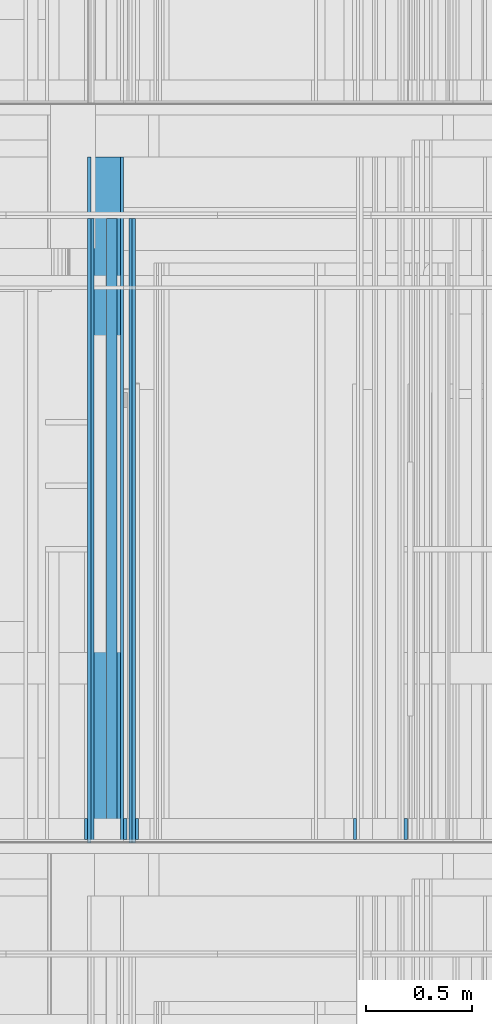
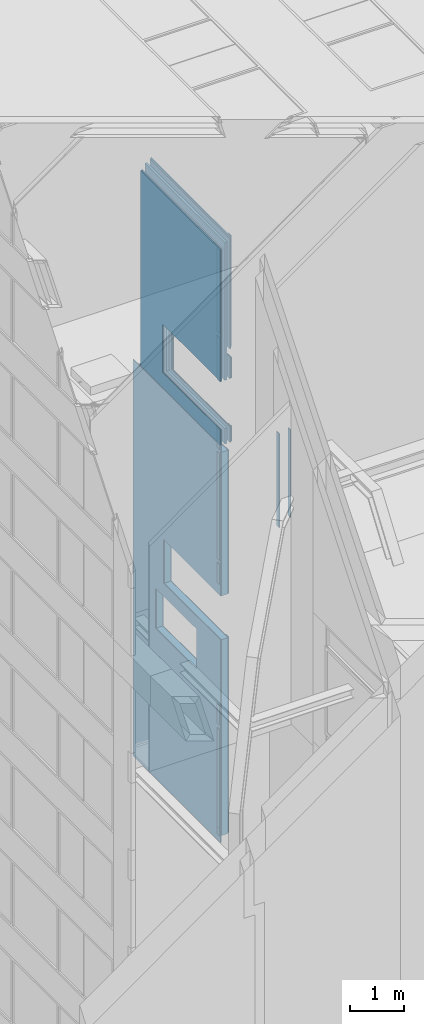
# One storey, part 73 of 583: 24 building element parts, 4 openings, 3 elements without a shape of their own.
"""IFC2X3 building model written with IfcOpenShell, lengths in metres."""

from ifc_helpers import new_model, entity, si_unit, converted_unit, derived_unit, money_unit, direction, frame, frame_2d, origin_with_axes, place, context, subcontext, project, spatial, polyline, rectangle, outline, extrude, material, type_object, element, aggregate, save


model = new_model("IFC2X3")

# Units and contexts
model_context = context("Model", 3, precision=1e-05, world=origin_with_axes(), true_north=direction((0.0, 1.0)))
body_context = subcontext(model_context, "Body", "Model", "MODEL_VIEW", scale=1.0)
ifc_project = project(units=[si_unit("LENGTHUNIT", "METRE"), si_unit("AREAUNIT", "SQUARE_METRE"), si_unit("VOLUMEUNIT", "CUBIC_METRE"), si_unit("ABSORBEDDOSEUNIT", "GRAY"), si_unit("AMOUNTOFSUBSTANCEUNIT", "MOLE"), si_unit("DOSEEQUIVALENTUNIT", "SIEVERT"), si_unit("ELECTRICCAPACITANCEUNIT", "FARAD"), si_unit("ELECTRICCHARGEUNIT", "COULOMB"), si_unit("ELECTRICCONDUCTANCEUNIT", "SIEMENS"), si_unit("ELECTRICCURRENTUNIT", "AMPERE"), si_unit("ELECTRICRESISTANCEUNIT", "OHM"), si_unit("ELECTRICVOLTAGEUNIT", "VOLT"), si_unit("ENERGYUNIT", "JOULE"), si_unit("FORCEUNIT", "NEWTON"), si_unit("FREQUENCYUNIT", "HERTZ"), si_unit("ILLUMINANCEUNIT", "LUX"), si_unit("INDUCTANCEUNIT", "HENRY"), si_unit("LUMINOUSFLUXUNIT", "LUMEN"), si_unit("LUMINOUSINTENSITYUNIT", "CANDELA"), si_unit("MAGNETICFLUXDENSITYUNIT", "TESLA"), si_unit("MAGNETICFLUXUNIT", "WEBER"), si_unit("MASSUNIT", "GRAM"), converted_unit("PLANEANGLEUNIT", "degree", entity("IfcReal", 0.0174532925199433), si_unit("PLANEANGLEUNIT", "RADIAN"), dimensions=[0, 0, 0, 0, 0, 0, 0]), si_unit("POWERUNIT", "WATT"), si_unit("PRESSUREUNIT", "PASCAL"), si_unit("RADIOACTIVITYUNIT", "BECQUEREL"), si_unit("SOLIDANGLEUNIT", "STERADIAN"), si_unit("THERMODYNAMICTEMPERATUREUNIT", "KELVIN"), si_unit("TIMEUNIT", "SECOND"), derived_unit("ACCELERATIONUNIT", [(si_unit("LENGTHUNIT", "METRE"), 1), (si_unit("TIMEUNIT", "SECOND"), -2)]), derived_unit("ANGULARVELOCITYUNIT", [(converted_unit("PLANEANGLEUNIT", "degree", entity("IfcReal", 0.0174532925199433), si_unit("PLANEANGLEUNIT", "RADIAN"), dimensions=[0, 0, 0, 0, 0, 0, 0]), 1), (si_unit("TIMEUNIT", "SECOND"), -1)]), derived_unit("CURVATUREUNIT", [(converted_unit("PLANEANGLEUNIT", "degree", entity("IfcReal", 0.0174532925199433), si_unit("PLANEANGLEUNIT", "RADIAN"), dimensions=[0, 0, 0, 0, 0, 0, 0]), 1), (si_unit("LENGTHUNIT", "METRE"), -1)]), derived_unit("DYNAMICVISCOSITYUNIT", [(si_unit("PRESSUREUNIT", "PASCAL"), 1), (si_unit("TIMEUNIT", "SECOND"), 1)]), derived_unit("HEATFLUXDENSITYUNIT", [(si_unit("POWERUNIT", "WATT"), 1), (si_unit("LENGTHUNIT", "METRE"), -2)]), derived_unit("HEATINGVALUEUNIT", [(si_unit("ENERGYUNIT", "JOULE"), 1), (si_unit("MASSUNIT", "GRAM"), -1)]), derived_unit("INTEGERCOUNTRATEUNIT", [(si_unit("TIMEUNIT", "SECOND"), -1)]), derived_unit("IONCONCENTRATIONUNIT", [(si_unit("MASSUNIT", "GRAM"), 1), (si_unit("VOLUMEUNIT", "CUBIC_METRE"), -1)]), derived_unit("ISOTHERMALMOISTURECAPACITYUNIT", [(si_unit("VOLUMEUNIT", "CUBIC_METRE"), 1), (si_unit("MASSUNIT", "GRAM"), -1)]), derived_unit("KINEMATICVISCOSITYUNIT", [(si_unit("AREAUNIT", "SQUARE_METRE"), 1), (si_unit("TIMEUNIT", "SECOND"), -1)]), derived_unit("LINEARFORCEUNIT", [(si_unit("FORCEUNIT", "NEWTON"), 1), (si_unit("LENGTHUNIT", "METRE"), -1)]), derived_unit("LINEARMOMENTUNIT", [(si_unit("FORCEUNIT", "NEWTON"), 1), (si_unit("LENGTHUNIT", "METRE"), -1)]), derived_unit("LINEARSTIFFNESSUNIT", [(si_unit("FORCEUNIT", "NEWTON"), 1), (si_unit("LENGTHUNIT", "METRE"), -1)]), derived_unit("LINEARVELOCITYUNIT", [(si_unit("LENGTHUNIT", "METRE"), 1), (si_unit("TIMEUNIT", "SECOND"), -1)]), derived_unit("LUMINOUSINTENSITYDISTRIBUTIONUNIT", [(si_unit("LUMINOUSINTENSITYUNIT", "CANDELA"), 1), (si_unit("LUMINOUSFLUXUNIT", "LUMEN"), -1)]), derived_unit("MASSDENSITYUNIT", [(si_unit("MASSUNIT", "GRAM"), 1), (si_unit("VOLUMEUNIT", "CUBIC_METRE"), -1)]), derived_unit("MASSFLOWRATEUNIT", [(si_unit("MASSUNIT", "GRAM"), 1), (si_unit("TIMEUNIT", "SECOND"), -1)]), derived_unit("MASSPERLENGTHUNIT", [(si_unit("MASSUNIT", "GRAM"), 1), (si_unit("LENGTHUNIT", "METRE"), -1)]), derived_unit("MODULUSOFELASTICITYUNIT", [(si_unit("FORCEUNIT", "NEWTON"), 1), (si_unit("AREAUNIT", "SQUARE_METRE"), -1)]), derived_unit("MODULUSOFLINEARSUBGRADEREACTIONUNIT", [(si_unit("FORCEUNIT", "NEWTON"), 1), (si_unit("LENGTHUNIT", "METRE"), -2)]), derived_unit("MODULUSOFROTATIONALSUBGRADEREACTIONUNIT", [(si_unit("FORCEUNIT", "NEWTON"), 1), (si_unit("LENGTHUNIT", "METRE"), 1)]), derived_unit("MODULUSOFSUBGRADEREACTIONUNIT", [(si_unit("FORCEUNIT", "NEWTON"), 1), (si_unit("VOLUMEUNIT", "CUBIC_METRE"), -1)]), derived_unit("MOISTUREDIFFUSIVITYUNIT", [(si_unit("VOLUMEUNIT", "CUBIC_METRE"), 1), (si_unit("TIMEUNIT", "SECOND"), -1)]), derived_unit("MOLECULARWEIGHTUNIT", [(si_unit("MASSUNIT", "GRAM"), 1), (si_unit("AMOUNTOFSUBSTANCEUNIT", "MOLE"), -1)]), derived_unit("PLANARFORCEUNIT", [(si_unit("FORCEUNIT", "NEWTON"), 1), (si_unit("LENGTHUNIT", "METRE"), -2)]), derived_unit("ROTATIONALFREQUENCYUNIT", [(si_unit("TIMEUNIT", "SECOND"), -1)]), derived_unit("ROTATIONALMASSUNIT", [(si_unit("MASSUNIT", "GRAM"), 1), (si_unit("LENGTHUNIT", "METRE"), 2)]), derived_unit("ROTATIONALSTIFFNESSUNIT", [(si_unit("FORCEUNIT", "NEWTON"), 1), (si_unit("LENGTHUNIT", "METRE"), 1), (converted_unit("PLANEANGLEUNIT", "degree", entity("IfcReal", 0.0174532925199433), si_unit("PLANEANGLEUNIT", "RADIAN"), dimensions=[0, 0, 0, 0, 0, 0, 0]), -1)]), derived_unit("SECTIONAREAINTEGRALUNIT", [(si_unit("LENGTHUNIT", "METRE"), 5)]), derived_unit("SECTIONMODULUSUNIT", [(si_unit("LENGTHUNIT", "METRE"), 3)]), derived_unit("SHEARMODULUSUNIT", [(si_unit("FORCEUNIT", "NEWTON"), 1), (si_unit("AREAUNIT", "SQUARE_METRE"), -1)]), derived_unit("SOUNDPOWERUNIT", [(si_unit("ENERGYUNIT", "JOULE"), 1), (si_unit("TIMEUNIT", "SECOND"), -1)]), derived_unit("SPECIFICHEATCAPACITYUNIT", [(si_unit("FORCEUNIT", "NEWTON"), 1), (si_unit("MASSUNIT", "GRAM"), -1), (si_unit("THERMODYNAMICTEMPERATUREUNIT", "KELVIN"), -1)]), derived_unit("TEMPERATUREGRADIENTUNIT", [(si_unit("THERMODYNAMICTEMPERATUREUNIT", "KELVIN"), 1), (si_unit("LENGTHUNIT", "METRE"), -1)]), derived_unit("THERMALADMITTANCEUNIT", [(si_unit("POWERUNIT", "WATT"), 1), (si_unit("AREAUNIT", "SQUARE_METRE"), -1), (si_unit("THERMODYNAMICTEMPERATUREUNIT", "KELVIN"), -1)]), derived_unit("THERMALCONDUCTANCEUNIT", [(si_unit("POWERUNIT", "WATT"), 1), (si_unit("LENGTHUNIT", "METRE"), -1), (si_unit("THERMODYNAMICTEMPERATUREUNIT", "KELVIN"), -1)]), derived_unit("THERMALEXPANSIONCOEFFICIENTUNIT", [(si_unit("THERMODYNAMICTEMPERATUREUNIT", "KELVIN"), -1)]), derived_unit("THERMALRESISTANCEUNIT", [(si_unit("AREAUNIT", "SQUARE_METRE"), 1), (si_unit("POWERUNIT", "WATT"), -1)]), derived_unit("THERMALTRANSMITTANCEUNIT", [(si_unit("POWERUNIT", "WATT"), 1), (si_unit("AREAUNIT", "SQUARE_METRE"), -1), (si_unit("THERMODYNAMICTEMPERATUREUNIT", "KELVIN"), -1)]), derived_unit("TORQUEUNIT", [(si_unit("FORCEUNIT", "NEWTON"), 1), (si_unit("LENGTHUNIT", "METRE"), 1)]), derived_unit("VAPORPERMEABILITYUNIT", [(si_unit("MASSUNIT", "GRAM"), 1), (si_unit("TIMEUNIT", "SECOND"), -1)]), derived_unit("VOLUMETRICFLOWRATEUNIT", [(si_unit("VOLUMEUNIT", "CUBIC_METRE"), 1), (si_unit("TIMEUNIT", "SECOND"), -1)]), derived_unit("WARPINGCONSTANTUNIT", [(si_unit("LENGTHUNIT", "METRE"), 6)]), derived_unit("WARPINGMOMENTUNIT", [(si_unit("FORCEUNIT", "NEWTON"), 1), (si_unit("LENGTHUNIT", "METRE"), 2)]), money_unit("GBP")], contexts=[model_context])

# Site, building, storey
site_placement = place(None, origin_with_axes())
site = spatial("IfcSite", under=ifc_project, at=site_placement, Name="Site", CompositionType="ELEMENT")
building_placement = place(site_placement, origin_with_axes())
building = spatial("IfcBuilding", under=site, at=building_placement, Name="Building01", CompositionType="ELEMENT")
storey_placement = place(building_placement, frame((0.0, 0.0, 20.78), z_axis=(0.0, 0.0, 1.0), x_axis=(1.0, 0.0, 0.0)))
storey = spatial("IfcBuildingStorey", under=building, at=storey_placement, Name="RL", CompositionType="ELEMENT", Elevation=20.78)

# Wall, openings, building element parts
wall_type_1 = type_object("IfcWallType", Name="SHE_A-Walls_Type01c_Partywall_225mm_twin_tall", PredefinedType="NOTDEFINED")
wall_1_placement = place(storey_placement, frame((5.068, 8.64, -2.78), z_axis=(0.0, 1.0, 0.0), x_axis=(0.0, 0.0, 1.0)))
wall_1 = element("IfcWall", 1, at=wall_1_placement, inside=storey, type_object=wall_type_1, Name="1C", ObjectType="SHE_A-Walls_Type01c_Partywall_225mm_twin_tall")
opening_1_placement = place(wall_1_placement, frame((0.35, -0.475, -0.03), z_axis=(0.0, 0.0, 1.0), x_axis=(1.0, 0.0, 0.0)))
element("IfcOpeningElement", 2, at=opening_1_placement, cuts=wall_1, Name="Opening", ObjectType="Opening", context=body_context, shape_type="SweptSolid", body=[
    extrude(rectangle(XDim=1.084, YDim=2.142, at=frame_2d((0.542, 1.071), x_axis=(-1.0, 0.0))), frame((0.0, 0.7875, 0.0), z_axis=(0.0, -1.0, 0.0), x_axis=(1.0, 0.0, 0.0)), (0.0, 0.0, 1.0), 1.575),
])
opening_2_placement = place(wall_1_placement, frame((0.35, -0.088, 0.0), z_axis=(0.0, 0.0, 1.0), x_axis=(1.0, 0.0, 0.0)))
element("IfcOpeningElement", 3, at=opening_2_placement, cuts=wall_1, Name="Opening", ObjectType="Opening", context=body_context, shape_type="SweptSolid", body=[
    extrude(rectangle(XDim=2.142, YDim=1.084, at=frame_2d((0.542, 1.071), x_axis=(0.0, -1.0))), frame((0.0, 0.207, 0.0), z_axis=(0.0, -1.0, 0.0), x_axis=(1.0, 0.0, 0.0)), (0.0, 0.0, 1.0), 0.414),
])
ifc_material_1 = material(Name="A_BSUK_Insulation")
placement_1 = place(wall_1_placement, origin_with_axes())
building_element_part_1 = element("IfcBuildingElementPart", 4, at=placement_1, material=ifc_material_1, Name="1", context=body_context, shape_type="SweptSolid", body=[
    extrude(rectangle(XDim=4.538, YDim=0.05, at=frame_2d((2.269, 0.025), x_axis=(-1.0, 0.0))), origin_with_axes(), (0.0, 0.0, 1.0), 2.95),
])
ifc_material_2 = material(Name="A_BSUK_Walls_Timber")
building_element_part_2 = element("IfcBuildingElementPart", 5, at=placement_1, material=ifc_material_2, Name="2", context=body_context, shape_type="SweptSolid", body=[
    extrude(outline(polyline([(1.897661, 0.152), (0.015, 0.152), (0.0, 0.137), (1.897661, 0.137), (1.897661, 0.152)])), frame((0.0, 0.0, 0.015), z_axis=(0.0, 0.0, 1.0), x_axis=(1.0, 0.0, 0.0)), (0.0, 0.0, 1.0), 0.1),
])
ifc_material_3 = material(Name="A_BSUK_WallInternal_Finishes_Plasterboard")
building_element_part_3 = element("IfcBuildingElementPart", 6, at=placement_1, material=ifc_material_3, Name="3", context=body_context, shape_type="SweptSolid", body=[
    extrude(rectangle(XDim=1.912661, YDim=0.015, at=frame_2d((0.956331, 0.1295), x_axis=(-1.0, 0.0))), origin_with_axes(), (0.0, 0.0, 1.0), 2.95),
])
building_element_part_4 = element("IfcBuildingElementPart", 7, at=placement_1, material=ifc_material_3, Name="4", context=body_context, shape_type="SweptSolid", body=[
    extrude(rectangle(XDim=1.927661, YDim=0.015, at=frame_2d((0.963831, 0.1145), x_axis=(-1.0, 0.0))), origin_with_axes(), (0.0, 0.0, 1.0), 2.95),
])
building_element_part_5 = element("IfcBuildingElementPart", 8, at=placement_1, material=ifc_material_3, Name="5", context=body_context, shape_type="SweptSolid", body=[
    extrude(outline(polyline([(4.43, -0.058), (0.0, -0.058), (0.0, -0.073), (4.415, -0.073), (4.43, -0.058)])), origin_with_axes(), (0.0, 0.0, 1.0), 2.95),
])
building_element_part_6 = element("IfcBuildingElementPart", 9, at=placement_1, material=ifc_material_3, Name="6", context=body_context, shape_type="SweptSolid", body=[
    extrude(outline(polyline([(4.415, -0.073), (0.0, -0.073), (0.0, -0.088), (4.4, -0.088), (4.415, -0.073)])), origin_with_axes(), (0.0, 0.0, 1.0), 2.95),
])
building_element_part_7 = element("IfcBuildingElementPart", 10, at=placement_1, material=ifc_material_2, Name="7", context=body_context, shape_type="SweptSolid", body=[
    extrude(rectangle(XDim=2.415, YDim=0.015, at=frame_2d((1.2075, -0.0955), x_axis=(-1.0, 0.0))), frame((0.0, 0.0, 0.015), z_axis=(0.0, 0.0, 1.0), x_axis=(1.0, 0.0, 0.0)), (0.0, 0.0, 1.0), 0.1),
])
building_element_part_8 = element("IfcBuildingElementPart", 11, at=placement_1, material=ifc_material_3, Name="8", context=body_context, shape_type="SweptSolid", body=[
    extrude(outline(polyline([(4.415, -0.073), (0.0, -0.073), (0.0, -0.088), (4.4, -0.088), (4.415, -0.073)])), origin_with_axes(), (0.0, 0.0, 1.0), 2.95),
])
building_element_part_9 = element("IfcBuildingElementPart", 12, at=placement_1, material=ifc_material_2, Name="9", context=body_context, shape_type="SweptSolid", body=[
    extrude(outline(polyline([(4.64, 0.152), (2.137661, 0.152), (2.137661, 0.137), (4.625, 0.137), (4.64, 0.152)])), frame((0.0, 0.0, 0.015), z_axis=(0.0, 0.0, 1.0), x_axis=(1.0, 0.0, 0.0)), (0.0, 0.0, 1.0), 0.1),
])
building_element_part_10 = element("IfcBuildingElementPart", 13, at=placement_1, material=ifc_material_3, Name="10", context=body_context, shape_type="SweptSolid", body=[
    extrude(outline(polyline([(4.625, 0.137), (2.107661, 0.137), (2.107661, 0.122), (4.61, 0.122), (4.625, 0.137)])), origin_with_axes(), (0.0, 0.0, 1.0), 2.95),
])
building_element_part_11 = element("IfcBuildingElementPart", 14, at=placement_1, material=ifc_material_3, Name="11", context=body_context, shape_type="SweptSolid", body=[
    extrude(outline(polyline([(4.61, 0.122), (2.107661, 0.122), (2.107661, 0.107), (4.595, 0.107), (4.61, 0.122)])), origin_with_axes(), (0.0, 0.0, 1.0), 2.95),
])
building_element_part_12 = element("IfcBuildingElementPart", 15, at=placement_1, material=ifc_material_2, Name="12", context=body_context, shape_type="SweptSolid", body=[
    extrude(outline(polyline([(4.4, -0.088), (2.51, -0.088), (2.51, -0.103), (4.385, -0.103), (4.4, -0.088)])), frame((0.0, 0.0, 0.015), z_axis=(0.0, 0.0, 1.0), x_axis=(1.0, 0.0, 0.0)), (0.0, 0.0, 1.0), 0.1),
])
aggregate(wall_1, [building_element_part_1, building_element_part_2, building_element_part_3, building_element_part_4, building_element_part_5, building_element_part_6, building_element_part_7, building_element_part_8, building_element_part_9, building_element_part_10, building_element_part_11, building_element_part_12])

# Wall, building element parts
wall_2_placement = place(storey_placement, frame((6.337, 8.64, -2.95), z_axis=(0.0, 1.0, 0.0), x_axis=(0.0, 0.0, -1.0)))
wall_2 = element("IfcWall", 16, at=wall_2_placement, inside=storey, type_object=wall_type_1, Name="1C", ObjectType="SHE_A-Walls_Type01c_Partywall_225mm_twin_tall")
placement_2 = place(wall_2_placement, origin_with_axes())
building_element_part_13 = element("IfcBuildingElementPart", 17, at=placement_2, material=ifc_material_2, Name="2", context=body_context, shape_type="SweptSolid", body=[
    extrude(rectangle(XDim=2.115, YDim=0.015, at=frame_2d((1.0725, 0.0945), x_axis=(-1.0, 0.0))), frame((0.0, 0.0, 0.015), z_axis=(0.0, 0.0, 1.0), x_axis=(1.0, 0.0, 0.0)), (0.0, 0.0, 1.0), 0.1),
])
building_element_part_14 = element("IfcBuildingElementPart", 18, at=placement_2, material=ifc_material_2, Name="7", context=body_context, shape_type="SweptSolid", body=[
    extrude(rectangle(XDim=1.97, YDim=0.015, at=frame_2d((1.0, -0.1455), x_axis=(-1.0, 0.0))), frame((0.0, 0.0, 0.015), z_axis=(0.0, 0.0, 1.0), x_axis=(1.0, 0.0, 0.0)), (0.0, 0.0, 1.0), 0.1),
])
aggregate(wall_2, [building_element_part_13, building_element_part_14])

# Wall, openings, building element parts
wall_type_2 = type_object("IfcWallType", Name="SHE_A-Walls_Type03a_BlockworkWall_170mm", PredefinedType="NOTDEFINED")
wall_3_placement = place(storey_placement, frame((4.995, 8.64, -11.565), z_axis=(0.0, 1.0, 0.0), x_axis=(0.0, 0.0, 1.0)))
wall_3 = element("IfcWall", 19, at=wall_3_placement, inside=storey, type_object=wall_type_2, Name="4B", ObjectType="SHE_A-Walls_Type03a_BlockworkWall_170mm")
opening_3_placement = place(wall_3_placement, frame((3.218, 0.199761, 0.9), z_axis=(0.0, 0.0, 1.0), x_axis=(1.0, 0.0, 0.0)))
element("IfcOpeningElement", 20, at=opening_3_placement, cuts=wall_3, Name="Opening", ObjectType="Opening", context=body_context, shape_type="SweptSolid", body=[
    extrude(rectangle(XDim=0.9, YDim=1.5, at=frame_2d((-0.45, 0.75), x_axis=(-1.0, 0.0))), frame((0.0, -10.524281, 0.0), z_axis=(0.0, 1.0, 0.0), x_axis=(-1.0, 0.0, 0.0)), (0.0, 0.0, 1.0), 21.048563),
])
opening_4_placement = place(wall_3_placement, frame((4.41, 0.15885, 0.0), z_axis=(0.0, 0.0, 1.0), x_axis=(1.0, 0.0, 0.0)))
element("IfcOpeningElement", 21, at=opening_4_placement, cuts=wall_3, Name="Opening", ObjectType="Opening", context=body_context, shape_type="SweptSolid", body=[
    extrude(rectangle(XDim=0.984, YDim=2.1, at=frame_2d((-0.492, 1.05), x_axis=(-1.0, 0.0))), frame((0.0, -10.430351, 0.0), z_axis=(0.0, 1.0, 0.0), x_axis=(-1.0, 0.0, 0.0)), (0.0, 0.0, 1.0), 20.860703),
])
ifc_material_4 = material(Name="A_BSUK_WallsInternal_Block")
placement_3 = place(wall_3_placement, origin_with_axes())
building_element_part_15 = element("IfcBuildingElementPart", 22, at=placement_3, material=ifc_material_4, Name="1", context=body_context, shape_type="SweptSolid", body=[
    extrude(rectangle(XDim=8.63, YDim=0.14, at=frame_2d((4.315, 0.07), x_axis=(-1.0, 0.0))), origin_with_axes(), (0.0, 0.0, 1.0), 3.24),
])
building_element_part_16 = element("IfcBuildingElementPart", 23, at=placement_3, material=ifc_material_2, Name="2", context=body_context, shape_type="SweptSolid", body=[
    extrude(rectangle(XDim=8.6, YDim=0.015, at=frame_2d((4.315, 0.1625), x_axis=(-1.0, 0.0))), frame((0.0, 0.0, 0.015), z_axis=(0.0, 0.0, 1.0), x_axis=(1.0, 0.0, 0.0)), (0.0, 0.0, 1.0), 0.1),
])
ifc_material_5 = material(Name="A_BSUK_WallInternal_Finishes_Plaster")
building_element_part_17 = element("IfcBuildingElementPart", 24, at=placement_3, material=ifc_material_5, Name="3", context=body_context, shape_type="SweptSolid", body=[
    extrude(rectangle(XDim=8.615, YDim=0.015, at=frame_2d((4.3225, 0.1475), x_axis=(-1.0, 0.0))), origin_with_axes(), (0.0, 0.0, 1.0), 3.24),
])
building_element_part_18 = element("IfcBuildingElementPart", 25, at=placement_3, material=ifc_material_3, Name="4", context=body_context, shape_type="SweptSolid", body=[
    extrude(rectangle(XDim=8.925, YDim=0.015, at=frame_2d((4.3075, -0.0075), x_axis=(-1.0, 0.0))), origin_with_axes(), (0.0, 0.0, 1.0), 3.24),
])
building_element_part_19 = element("IfcBuildingElementPart", 26, at=placement_3, material=ifc_material_2, Name="5", context=body_context, shape_type="SweptSolid", body=[
    extrude(rectangle(XDim=0.169464, YDim=0.015, at=frame_2d((0.077268, -0.0225), x_axis=(-1.0, 0.0))), frame((0.0, 0.0, 0.015), z_axis=(0.0, 0.0, 1.0), x_axis=(1.0, 0.0, 0.0)), (0.0, 0.0, 1.0), 0.1),
])
building_element_part_20 = element("IfcBuildingElementPart", 27, at=placement_3, material=ifc_material_2, Name="6", context=body_context, shape_type="SweptSolid", body=[
    extrude(rectangle(XDim=0.4475, YDim=0.015, at=frame_2d((5.87375, -0.0225), x_axis=(-1.0, 0.0))), frame((0.0, 0.0, 0.015), z_axis=(0.0, 0.0, 1.0), x_axis=(1.0, 0.0, 0.0)), (0.0, 0.0, 1.0), 0.1),
])
building_element_part_21 = element("IfcBuildingElementPart", 28, at=placement_3, material=ifc_material_2, Name="7", context=body_context, shape_type="SweptSolid", body=[
    extrude(rectangle(XDim=0.015, YDim=0.0975, at=frame_2d((8.73625, -0.0225), x_axis=(0.0, -1.0))), frame((0.0, 0.0, 0.015), z_axis=(0.0, 0.0, 1.0), x_axis=(1.0, 0.0, 0.0)), (0.0, 0.0, 1.0), 0.1),
])
building_element_part_22 = element("IfcBuildingElementPart", 29, at=placement_3, material=ifc_material_2, Name="8", context=body_context, shape_type="SweptSolid", body=[
    extrude(rectangle(XDim=2.385, YDim=0.015, at=frame_2d((1.185036, -0.0225), x_axis=(-1.0, 0.0))), frame((0.0, 0.0, 0.015), z_axis=(0.0, 0.0, 1.0), x_axis=(1.0, 0.0, 0.0)), (0.0, 0.0, 1.0), 0.1),
])
building_element_part_23 = element("IfcBuildingElementPart", 30, at=placement_3, material=ifc_material_2, Name="9", context=body_context, shape_type="SweptSolid", body=[
    extrude(rectangle(XDim=2.4, YDim=0.015, at=frame_2d((7.3925, -0.0225), x_axis=(-1.0, 0.0))), frame((0.0, 0.0, 0.015), z_axis=(0.0, 0.0, 1.0), x_axis=(1.0, 0.0, 0.0)), (0.0, 0.0, 1.0), 0.1),
])
building_element_part_24 = element("IfcBuildingElementPart", 31, at=placement_3, material=ifc_material_2, Name="10", context=body_context, shape_type="SweptSolid", body=[
    extrude(rectangle(XDim=0.432464, YDim=0.015, at=frame_2d((2.703768, -0.0225), x_axis=(-1.0, 0.0))), frame((0.0, 0.0, 0.015), z_axis=(0.0, 0.0, 1.0), x_axis=(1.0, 0.0, 0.0)), (0.0, 0.0, 1.0), 0.1),
])
aggregate(wall_3, [building_element_part_15, building_element_part_16, building_element_part_17, building_element_part_18, building_element_part_19, building_element_part_20, building_element_part_21, building_element_part_22, building_element_part_23, building_element_part_24])

save(model, "model.ifc")
